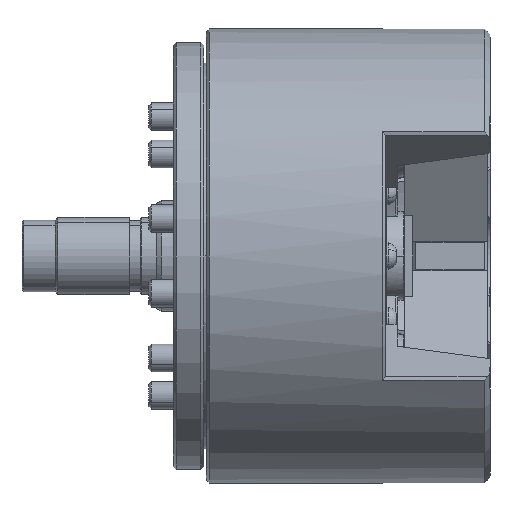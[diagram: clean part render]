
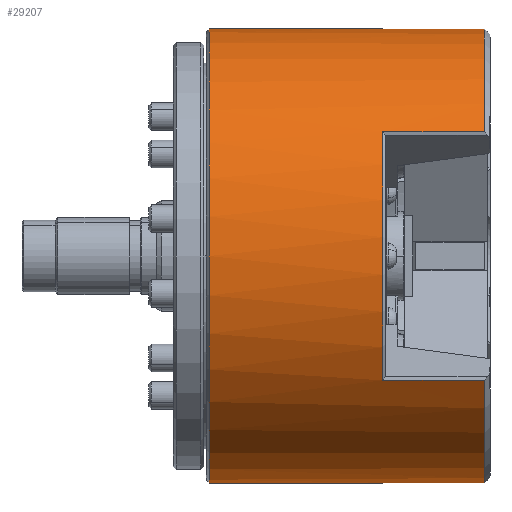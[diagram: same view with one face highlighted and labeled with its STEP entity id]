
A CAD part, front view. The second image highlights one B-rep face of the part: STEP entity #29207.
In plain terms, the highlighted cylindrical face has radius 82.5 mm (diameter 165 mm), a partial arc.
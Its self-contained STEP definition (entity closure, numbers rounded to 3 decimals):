
#32 = CIRCLE ( 'NONE', #34570, 82.5 ) ;
#452 = ORIENTED_EDGE ( 'NONE', *, *, #14571, .F. ) ;
#743 = CARTESIAN_POINT ( 'NONE',  ( -0.482, -69.041, -45.162 ) ) ;
#855 = CARTESIAN_POINT ( 'NONE',  ( 63.843, 0., 0. ) ) ;
#1393 = CARTESIAN_POINT ( 'NONE',  ( -63.5, 0., 0. ) ) ;
#1693 = LINE ( 'NONE', #7127, #8058 ) ;
#1996 = DIRECTION ( 'NONE',  ( -1., 0., 0. ) ) ;
#2092 = VERTEX_POINT ( 'NONE', #21634 ) ;
#2436 = EDGE_CURVE ( 'NONE', #27119, #11378, #32548, .T. ) ;
#3508 = LINE ( 'NONE', #27954, #9991 ) ;
#3619 = VECTOR ( 'NONE', #4580, 1000. ) ;
#3873 = ORIENTED_EDGE ( 'NONE', *, *, #35046, .F. ) ;
#4094 = DIRECTION ( 'NONE',  ( 0., 0., -1. ) ) ;
#4196 = DIRECTION ( 'NONE',  ( -1., 0., 0. ) ) ;
#4407 = VERTEX_POINT ( 'NONE', #22311 ) ;
#4580 = DIRECTION ( 'NONE',  ( 1., 0., 0. ) ) ;
#5132 = CARTESIAN_POINT ( 'NONE',  ( -63.5, 0., 82.5 ) ) ;
#5726 = EDGE_CURVE ( 'NONE', #28601, #2092, #28911, .T. ) ;
#5898 = CARTESIAN_POINT ( 'NONE',  ( -0.482, 0., 0. ) ) ;
#6165 = EDGE_CURVE ( 'NONE', #32768, #8496, #32361, .T. ) ;
#6347 = DIRECTION ( 'NONE',  ( 1., 0., 0. ) ) ;
#6436 = ORIENTED_EDGE ( 'NONE', *, *, #32992, .T. ) ;
#6779 = EDGE_CURVE ( 'NONE', #23506, #8034, #32, .T. ) ;
#7127 = CARTESIAN_POINT ( 'NONE',  ( 63.843, 0., -82.5 ) ) ;
#7714 = ORIENTED_EDGE ( 'NONE', *, *, #17726, .T. ) ;
#8034 = VERTEX_POINT ( 'NONE', #35478 ) ;
#8058 = VECTOR ( 'NONE', #26530, 1000. ) ;
#8310 = CARTESIAN_POINT ( 'NONE',  ( -0.482, 0., 0. ) ) ;
#8496 = VERTEX_POINT ( 'NONE', #27354 ) ;
#8579 = EDGE_CURVE ( 'NONE', #2092, #4407, #20667, .T. ) ;
#8602 = ORIENTED_EDGE ( 'NONE', *, *, #8727, .T. ) ;
#8625 = VERTEX_POINT ( 'NONE', #28695 ) ;
#8674 = DIRECTION ( 'NONE',  ( 0., 0., -1. ) ) ;
#8727 = EDGE_CURVE ( 'NONE', #8034, #32768, #1693, .T. ) ;
#9250 = DIRECTION ( 'NONE',  ( 1., 0., 0. ) ) ;
#9606 = VECTOR ( 'NONE', #10578, 1000. ) ;
#9910 = ORIENTED_EDGE ( 'NONE', *, *, #30132, .T. ) ;
#9914 = AXIS2_PLACEMENT_3D ( 'NONE', #855, #6347, #22894 ) ;
#9991 = VECTOR ( 'NONE', #14173, 1000. ) ;
#10578 = DIRECTION ( 'NONE',  ( -1., 0., 0. ) ) ;
#10697 = CARTESIAN_POINT ( 'NONE',  ( 63.843, -69.041, -45.162 ) ) ;
#11118 = DIRECTION ( 'NONE',  ( 0., 0., -1. ) ) ;
#11139 = DIRECTION ( 'NONE',  ( 1., 0., 0. ) ) ;
#11378 = VERTEX_POINT ( 'NONE', #743 ) ;
#11639 = EDGE_CURVE ( 'NONE', #28601, #33050, #15459, .T. ) ;
#11866 = LINE ( 'NONE', #21152, #3619 ) ;
#13160 = AXIS2_PLACEMENT_3D ( 'NONE', #8310, #27700, #11118 ) ;
#14173 = DIRECTION ( 'NONE',  ( 1., 0., 0. ) ) ;
#14571 = EDGE_CURVE ( 'NONE', #27119, #8625, #17033, .T. ) ;
#15382 = EDGE_LOOP ( 'NONE', ( #3873, #17765, #8602, #22425, #7714, #452, #32025, #9910, #6436, #20291, #16838, #23312 ) ) ;
#15459 = CIRCLE ( 'NONE', #24788, 82.5 ) ;
#16049 = CARTESIAN_POINT ( 'NONE',  ( 36.5, -69.041, -45.162 ) ) ;
#16065 = AXIS2_PLACEMENT_3D ( 'NONE', #25847, #9250, #28609 ) ;
#16286 = CARTESIAN_POINT ( 'NONE',  ( 36.5, 0., 0. ) ) ;
#16838 = ORIENTED_EDGE ( 'NONE', *, *, #5726, .T. ) ;
#17033 = CIRCLE ( 'NONE', #16065, 82.5 ) ;
#17726 = EDGE_CURVE ( 'NONE', #8496, #8625, #34231, .T. ) ;
#17765 = ORIENTED_EDGE ( 'NONE', *, *, #6779, .T. ) ;
#19053 = DIRECTION ( 'NONE',  ( 0., 0., -1. ) ) ;
#20291 = ORIENTED_EDGE ( 'NONE', *, *, #11639, .F. ) ;
#20415 = VERTEX_POINT ( 'NONE', #31157 ) ;
#20665 = DIRECTION ( 'NONE',  ( 1., 0., 0. ) ) ;
#20667 = CIRCLE ( 'NONE', #13160, 82.5 ) ;
#20757 = CARTESIAN_POINT ( 'NONE',  ( -0.482, 0., 0. ) ) ;
#20824 = AXIS2_PLACEMENT_3D ( 'NONE', #5898, #25287, #8674 ) ;
#21152 = CARTESIAN_POINT ( 'NONE',  ( 63.843, -69.041, 45.162 ) ) ;
#21634 = CARTESIAN_POINT ( 'NONE',  ( -0.482, -4.591, 82.372 ) ) ;
#22311 = CARTESIAN_POINT ( 'NONE',  ( -0.482, 0., 82.5 ) ) ;
#22341 = FACE_OUTER_BOUND ( 'NONE', #15382, .T. ) ;
#22425 = ORIENTED_EDGE ( 'NONE', *, *, #6165, .T. ) ;
#22894 = DIRECTION ( 'NONE',  ( 0., 0., -1. ) ) ;
#23312 = ORIENTED_EDGE ( 'NONE', *, *, #8579, .T. ) ;
#23506 = VERTEX_POINT ( 'NONE', #5132 ) ;
#23577 = DIRECTION ( 'NONE',  ( 0., 0., -1. ) ) ;
#24788 = AXIS2_PLACEMENT_3D ( 'NONE', #16286, #35486, #19053 ) ;
#24950 = CARTESIAN_POINT ( 'NONE',  ( 63.843, -4.591, -82.372 ) ) ;
#25287 = DIRECTION ( 'NONE',  ( -1., 0., 0. ) ) ;
#25847 = CARTESIAN_POINT ( 'NONE',  ( 36.5, 0., 0. ) ) ;
#26530 = DIRECTION ( 'NONE',  ( 1., 0., 0. ) ) ;
#27001 = CARTESIAN_POINT ( 'NONE',  ( 36.5, -69.041, 45.162 ) ) ;
#27119 = VERTEX_POINT ( 'NONE', #16049 ) ;
#27354 = CARTESIAN_POINT ( 'NONE',  ( -0.482, -4.591, -82.372 ) ) ;
#27700 = DIRECTION ( 'NONE',  ( -1., 0., 0. ) ) ;
#27954 = CARTESIAN_POINT ( 'NONE',  ( 63.843, 0., 82.5 ) ) ;
#28013 = CYLINDRICAL_SURFACE ( 'NONE', #9914, 82.5 ) ;
#28354 = CARTESIAN_POINT ( 'NONE',  ( -0.482, 0., -82.5 ) ) ;
#28601 = VERTEX_POINT ( 'NONE', #34845 ) ;
#28609 = DIRECTION ( 'NONE',  ( 0., 0., -1. ) ) ;
#28695 = CARTESIAN_POINT ( 'NONE',  ( 36.5, -4.591, -82.372 ) ) ;
#28911 = LINE ( 'NONE', #34965, #35260 ) ;
#29207 = ADVANCED_FACE ( 'NONE', ( #22341 ), #28013, .T. ) ;
#30124 = CIRCLE ( 'NONE', #20824, 82.5 ) ;
#30132 = EDGE_CURVE ( 'NONE', #11378, #20415, #30124, .T. ) ;
#31157 = CARTESIAN_POINT ( 'NONE',  ( -0.482, -69.041, 45.162 ) ) ;
#32025 = ORIENTED_EDGE ( 'NONE', *, *, #2436, .T. ) ;
#32361 = CIRCLE ( 'NONE', #34122, 82.5 ) ;
#32548 = LINE ( 'NONE', #10697, #9606 ) ;
#32768 = VERTEX_POINT ( 'NONE', #28354 ) ;
#32992 = EDGE_CURVE ( 'NONE', #20415, #33050, #11866, .T. ) ;
#33050 = VERTEX_POINT ( 'NONE', #27001 ) ;
#33362 = VECTOR ( 'NONE', #11139, 1000. ) ;
#34122 = AXIS2_PLACEMENT_3D ( 'NONE', #20757, #4196, #23577 ) ;
#34231 = LINE ( 'NONE', #24950, #33362 ) ;
#34570 = AXIS2_PLACEMENT_3D ( 'NONE', #1393, #20665, #4094 ) ;
#34845 = CARTESIAN_POINT ( 'NONE',  ( 36.5, -4.591, 82.372 ) ) ;
#34965 = CARTESIAN_POINT ( 'NONE',  ( 63.843, -4.591, 82.372 ) ) ;
#35046 = EDGE_CURVE ( 'NONE', #23506, #4407, #3508, .T. ) ;
#35260 = VECTOR ( 'NONE', #1996, 1000. ) ;
#35478 = CARTESIAN_POINT ( 'NONE',  ( -63.5, 0., -82.5 ) ) ;
#35486 = DIRECTION ( 'NONE',  ( 1., 0., 0. ) ) ;
